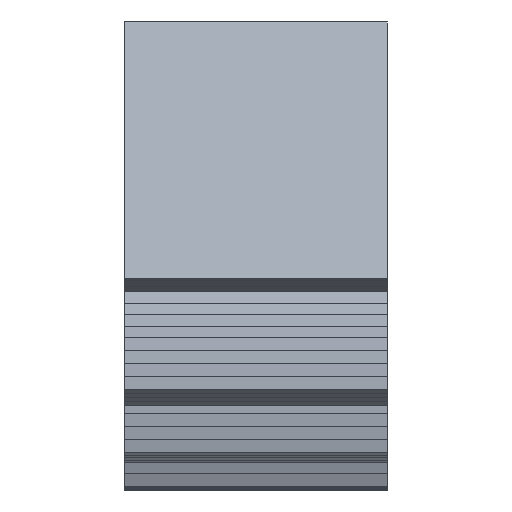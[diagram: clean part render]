
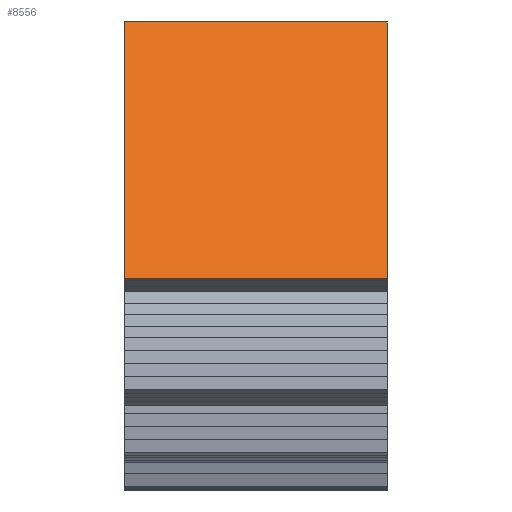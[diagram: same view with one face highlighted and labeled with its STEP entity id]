
A CAD part, top view. The second image highlights one B-rep face of the part: STEP entity #8556.
In plain terms, the highlighted planar face has unit normal (0, 0.588, 0.809).
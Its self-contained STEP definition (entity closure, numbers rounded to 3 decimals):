
#72 = PLANE('',#73);
#73 = AXIS2_PLACEMENT_3D('',#74,#75,#76);
#74 = CARTESIAN_POINT('',(-14.,0.,0.)
  );
#75 = DIRECTION('',(1.,0.,0.));
#76 = DIRECTION('',(0.,-0.995,-0.105));
#126 = PLANE('',#127);
#127 = AXIS2_PLACEMENT_3D('',#128,#129,#130);
#128 = CARTESIAN_POINT('',(-26.,0.,0.)
  );
#129 = DIRECTION('',(1.,0.,0.));
#130 = DIRECTION('',(0.,-0.995,-0.105));
#1377 = VERTEX_POINT('',#1378);
#1378 = CARTESIAN_POINT('',(-26.,-10.517,7.641));
#1397 = CYLINDRICAL_SURFACE('',#1398,13.);
#1398 = AXIS2_PLACEMENT_3D('',#1399,#1400,#1401);
#1399 = CARTESIAN_POINT('',(-27.,0.,0.));
#1400 = DIRECTION('',(-1.,-0.,-0.));
#1401 = DIRECTION('',(0.,1.,0.));
#1409 = EDGE_CURVE('',#1410,#1377,#1412,.T.);
#1410 = VERTEX_POINT('',#1411);
#1411 = CARTESIAN_POINT('',(-26.,-22.247,16.164));
#1412 = SURFACE_CURVE('',#1413,(#1417,#1423),.PCURVE_S1.);
#1413 = LINE('',#1414,#1415);
#1414 = CARTESIAN_POINT('',(-26.,0.,0.)
  );
#1415 = VECTOR('',#1416,1.);
#1416 = DIRECTION('',(0.,0.809,-0.588));
#1417 = PCURVE('',#126,#1418);
#1418 = DEFINITIONAL_REPRESENTATION('',(#1419),#1422);
#1419 = B_SPLINE_CURVE_WITH_KNOTS('',1,(#1420,#1421),.UNSPECIFIED.,.F.,
  .F.,(2,2),(-42.,0.),.PIECEWISE_BEZIER_KNOTS.);
#1420 = CARTESIAN_POINT('',(31.212,-28.103));
#1421 = CARTESIAN_POINT('',(0.,0.));
#1422 = ( GEOMETRIC_REPRESENTATION_CONTEXT(2) 
PARAMETRIC_REPRESENTATION_CONTEXT() REPRESENTATION_CONTEXT('2D SPACE',''
  ) );
#1423 = PCURVE('',#1424,#1429);
#1424 = PLANE('',#1425);
#1425 = AXIS2_PLACEMENT_3D('',#1426,#1427,#1428);
#1426 = CARTESIAN_POINT('',(-27.,0.,0.));
#1427 = DIRECTION('',(0.,-0.588,-0.809));
#1428 = DIRECTION('',(0.,-0.809,0.588));
#1429 = DEFINITIONAL_REPRESENTATION('',(#1430),#1433);
#1430 = B_SPLINE_CURVE_WITH_KNOTS('',1,(#1431,#1432),.UNSPECIFIED.,.F.,
  .F.,(2,2),(-42.,0.),.PIECEWISE_BEZIER_KNOTS.);
#1431 = CARTESIAN_POINT('',(42.,-1.));
#1432 = CARTESIAN_POINT('',(0.,-1.));
#1433 = ( GEOMETRIC_REPRESENTATION_CONTEXT(2) 
PARAMETRIC_REPRESENTATION_CONTEXT() REPRESENTATION_CONTEXT('2D SPACE',''
  ) );
#1451 = PLANE('',#1452);
#1452 = AXIS2_PLACEMENT_3D('',#1453,#1454,#1455);
#1453 = CARTESIAN_POINT('',(-26.,-22.126,16.33));
#1454 = DIRECTION('',(0.,0.809,-0.588));
#1455 = DIRECTION('',(0.,-0.588,-0.809));
#4498 = VERTEX_POINT('',#4499);
#4499 = CARTESIAN_POINT('',(-14.,-10.517,7.641));
#4525 = EDGE_CURVE('',#4526,#4498,#4528,.T.);
#4526 = VERTEX_POINT('',#4527);
#4527 = CARTESIAN_POINT('',(-14.,-22.247,16.164));
#4528 = SURFACE_CURVE('',#4529,(#4533,#4539),.PCURVE_S1.);
#4529 = LINE('',#4530,#4531);
#4530 = CARTESIAN_POINT('',(-14.,0.,0.)
  );
#4531 = VECTOR('',#4532,1.);
#4532 = DIRECTION('',(0.,0.809,-0.588));
#4533 = PCURVE('',#72,#4534);
#4534 = DEFINITIONAL_REPRESENTATION('',(#4535),#4538);
#4535 = B_SPLINE_CURVE_WITH_KNOTS('',1,(#4536,#4537),.UNSPECIFIED.,.F.,
  .F.,(2,2),(-42.,0.),.PIECEWISE_BEZIER_KNOTS.);
#4536 = CARTESIAN_POINT('',(31.212,-28.103));
#4537 = CARTESIAN_POINT('',(0.,0.));
#4538 = ( GEOMETRIC_REPRESENTATION_CONTEXT(2) 
PARAMETRIC_REPRESENTATION_CONTEXT() REPRESENTATION_CONTEXT('2D SPACE',''
  ) );
#4539 = PCURVE('',#1424,#4540);
#4540 = DEFINITIONAL_REPRESENTATION('',(#4541),#4544);
#4541 = B_SPLINE_CURVE_WITH_KNOTS('',1,(#4542,#4543),.UNSPECIFIED.,.F.,
  .F.,(2,2),(-42.,0.),.PIECEWISE_BEZIER_KNOTS.);
#4542 = CARTESIAN_POINT('',(42.,-13.));
#4543 = CARTESIAN_POINT('',(0.,-13.));
#4544 = ( GEOMETRIC_REPRESENTATION_CONTEXT(2) 
PARAMETRIC_REPRESENTATION_CONTEXT() REPRESENTATION_CONTEXT('2D SPACE',''
  ) );
#8510 = EDGE_CURVE('',#4498,#1377,#8511,.T.);
#8511 = SURFACE_CURVE('',#8512,(#8516,#8522),.PCURVE_S1.);
#8512 = LINE('',#8513,#8514);
#8513 = CARTESIAN_POINT('',(-27.,-10.517,7.641));
#8514 = VECTOR('',#8515,1.);
#8515 = DIRECTION('',(-1.,-0.,-0.));
#8516 = PCURVE('',#1397,#8517);
#8517 = DEFINITIONAL_REPRESENTATION('',(#8518),#8521);
#8518 = B_SPLINE_CURVE_WITH_KNOTS('',1,(#8519,#8520),.UNSPECIFIED.,.F.,
  .F.,(2,2),(-14.,0.),.PIECEWISE_BEZIER_KNOTS.);
#8519 = CARTESIAN_POINT('',(-2.513,-14.));
#8520 = CARTESIAN_POINT('',(-2.513,0.));
#8521 = ( GEOMETRIC_REPRESENTATION_CONTEXT(2) 
PARAMETRIC_REPRESENTATION_CONTEXT() REPRESENTATION_CONTEXT('2D SPACE',''
  ) );
#8522 = PCURVE('',#1424,#8523);
#8523 = DEFINITIONAL_REPRESENTATION('',(#8524),#8527);
#8524 = B_SPLINE_CURVE_WITH_KNOTS('',1,(#8525,#8526),.UNSPECIFIED.,.F.,
  .F.,(2,2),(-14.,0.),.PIECEWISE_BEZIER_KNOTS.);
#8525 = CARTESIAN_POINT('',(13.,-14.));
#8526 = CARTESIAN_POINT('',(13.,0.));
#8527 = ( GEOMETRIC_REPRESENTATION_CONTEXT(2) 
PARAMETRIC_REPRESENTATION_CONTEXT() REPRESENTATION_CONTEXT('2D SPACE',''
  ) );
#8556 = ADVANCED_FACE('',(#8557),#1424,.F.);
#8557 = FACE_BOUND('',#8558,.F.);
#8558 = EDGE_LOOP('',(#8559,#8578,#8579,#8580));
#8559 = ORIENTED_EDGE('',*,*,#8560,.T.);
#8560 = EDGE_CURVE('',#4526,#1410,#8561,.T.);
#8561 = SURFACE_CURVE('',#8562,(#8566,#8572),.PCURVE_S1.);
#8562 = LINE('',#8563,#8564);
#8563 = CARTESIAN_POINT('',(-26.5,-22.247,16.164));
#8564 = VECTOR('',#8565,1.);
#8565 = DIRECTION('',(-1.,0.,0.));
#8566 = PCURVE('',#1424,#8567);
#8567 = DEFINITIONAL_REPRESENTATION('',(#8568),#8571);
#8568 = B_SPLINE_CURVE_WITH_KNOTS('',1,(#8569,#8570),.UNSPECIFIED.,.F.,
  .F.,(2,2),(-12.5,-0.5),.PIECEWISE_BEZIER_KNOTS.);
#8569 = CARTESIAN_POINT('',(27.499,-13.));
#8570 = CARTESIAN_POINT('',(27.499,-1.));
#8571 = ( GEOMETRIC_REPRESENTATION_CONTEXT(2) 
PARAMETRIC_REPRESENTATION_CONTEXT() REPRESENTATION_CONTEXT('2D SPACE',''
  ) );
#8572 = PCURVE('',#1451,#8573);
#8573 = DEFINITIONAL_REPRESENTATION('',(#8574),#8577);
#8574 = B_SPLINE_CURVE_WITH_KNOTS('',1,(#8575,#8576),.UNSPECIFIED.,.F.,
  .F.,(2,2),(-12.5,-0.5),.PIECEWISE_BEZIER_KNOTS.);
#8575 = CARTESIAN_POINT('',(0.206,-12.));
#8576 = CARTESIAN_POINT('',(0.206,0.));
#8577 = ( GEOMETRIC_REPRESENTATION_CONTEXT(2) 
PARAMETRIC_REPRESENTATION_CONTEXT() REPRESENTATION_CONTEXT('2D SPACE',''
  ) );
#8578 = ORIENTED_EDGE('',*,*,#1409,.T.);
#8579 = ORIENTED_EDGE('',*,*,#8510,.F.);
#8580 = ORIENTED_EDGE('',*,*,#4525,.F.);
